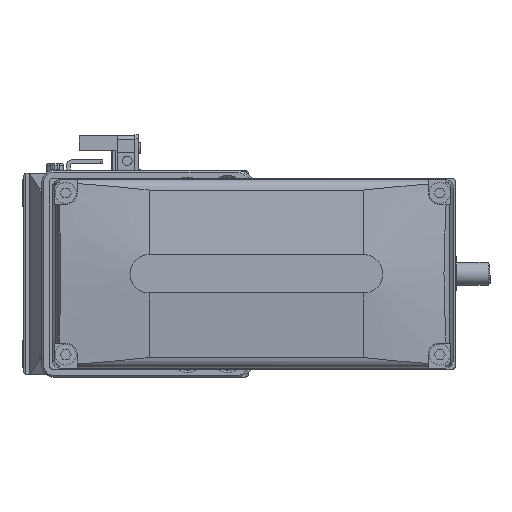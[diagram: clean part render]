
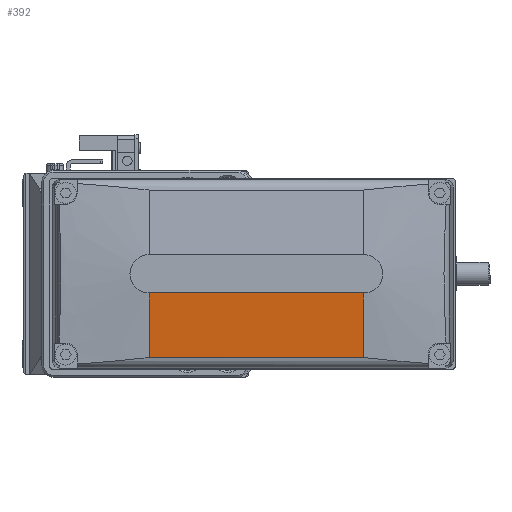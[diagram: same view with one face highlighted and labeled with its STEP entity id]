
A CAD part, left-side view. The second image highlights one B-rep face of the part: STEP entity #392.
In plain terms, the highlighted planar face has unit normal (-0.996, 0, -0.087).
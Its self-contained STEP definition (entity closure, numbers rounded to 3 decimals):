
#154 = CARTESIAN_POINT ( 'NONE',  ( 43606.406, -28., -499000. ) ) ;
#392 = ADVANCED_FACE ( 'NONE', ( #26745 ), #2676, .T. ) ;
#1687 = VERTEX_POINT ( 'NONE', #31312 ) ;
#2197 = VERTEX_POINT ( 'NONE', #22426 ) ;
#2470 = CARTESIAN_POINT ( 'NONE',  ( -48.525, -28., -21.861 ) ) ;
#2676 = PLANE ( 'NONE',  #34060 ) ;
#2752 = VERTEX_POINT ( 'NONE', #2470 ) ;
#4001 = ORIENTED_EDGE ( 'NONE', *, *, #5884, .T. ) ;
#4542 = EDGE_LOOP ( 'NONE', ( #24183, #32801, #7128, #4001 ) ) ;
#4996 = LINE ( 'NONE', #26307, #5412 ) ;
#5412 = VECTOR ( 'NONE', #17853, 1000. ) ;
#5884 = EDGE_CURVE ( 'NONE', #1687, #2197, #32086, .T. ) ;
#6634 = CARTESIAN_POINT ( 'NONE',  ( -48.525, 128., -21.861 ) ) ;
#7128 = ORIENTED_EDGE ( 'NONE', *, *, #25607, .F. ) ;
#8327 = CARTESIAN_POINT ( 'NONE',  ( -50., 128., -5. ) ) ;
#13864 = VECTOR ( 'NONE', #34773, 1000. ) ;
#15054 = CARTESIAN_POINT ( 'NONE',  ( -50., 128., -5. ) ) ;
#15193 = DIRECTION ( 'NONE',  ( 0., 1., 0. ) ) ;
#15502 = CARTESIAN_POINT ( 'NONE',  ( -48.525, 28., -21.861 ) ) ;
#17853 = DIRECTION ( 'NONE',  ( -0.087, 0., 0.996 ) ) ;
#18816 = EDGE_CURVE ( 'NONE', #30784, #2197, #4996, .T. ) ;
#19485 = LINE ( 'NONE', #6634, #26146 ) ;
#20070 = VECTOR ( 'NONE', #31290, 1000. ) ;
#22426 = CARTESIAN_POINT ( 'NONE',  ( -50., 28., -5. ) ) ;
#22480 = DIRECTION ( 'NONE',  ( -0.996, 0., -0.087 ) ) ;
#24183 = ORIENTED_EDGE ( 'NONE', *, *, #18816, .F. ) ;
#25607 = EDGE_CURVE ( 'NONE', #1687, #2752, #34292, .T. ) ;
#26146 = VECTOR ( 'NONE', #15193, 1000. ) ;
#26307 = CARTESIAN_POINT ( 'NONE',  ( 43606.406, 28., -499000. ) ) ;
#26745 = FACE_OUTER_BOUND ( 'NONE', #4542, .T. ) ;
#27968 = EDGE_CURVE ( 'NONE', #2752, #30784, #19485, .T. ) ;
#28187 = DIRECTION ( 'NONE',  ( -0.087, 0., 0.996 ) ) ;
#30784 = VERTEX_POINT ( 'NONE', #15502 ) ;
#31290 = DIRECTION ( 'NONE',  ( 0.087, 0., -0.996 ) ) ;
#31312 = CARTESIAN_POINT ( 'NONE',  ( -50., -28., -5. ) ) ;
#32086 = LINE ( 'NONE', #15054, #13864 ) ;
#32801 = ORIENTED_EDGE ( 'NONE', *, *, #27968, .F. ) ;
#34060 = AXIS2_PLACEMENT_3D ( 'NONE', #8327, #22480, #28187 ) ;
#34292 = LINE ( 'NONE', #154, #20070 ) ;
#34773 = DIRECTION ( 'NONE',  ( 0., 1., 0. ) ) ;
